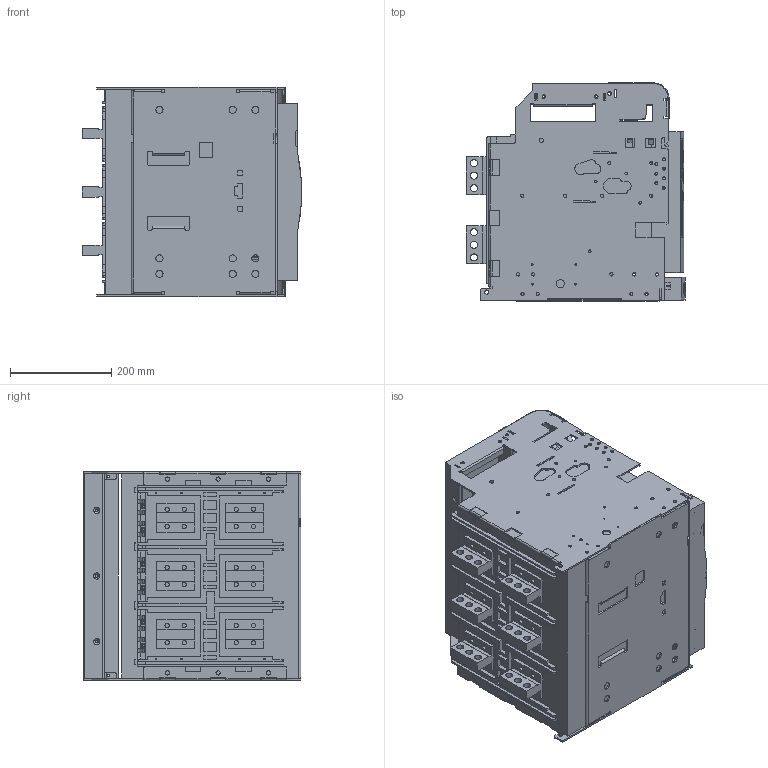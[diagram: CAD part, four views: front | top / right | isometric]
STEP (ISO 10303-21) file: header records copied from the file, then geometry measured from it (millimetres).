
FILE_DESCRIPTION (( 'STEP AP214' ), '1' );
FILE_NAME ('OptiMat A-S4-BH-2500-3200-3P-D-V.STEP', '2023-08-01T06:36:39', ( '' ), ( '' ), 'SwSTEP 2.0', 'SolidWorks 2018', '' );
FILE_SCHEMA (( 'AUTOMOTIVE_DESIGN' ));
Length unit declared in the file: millimetre
Products named in the file (1): OptiMat A-S4-BH-2500-3200-3P-D-V
Bounding box: 433.8 x 431.5 x 415 mm (x, y, z)
Volume: 42821715.4 mm3; surface area: 2484658.1 mm2
Topology: 11 solids, 11 shells, 4386 faces, 12230 edges, 8014 vertices
Faces by surface type: plane 2759, cylinder 1396, cone 139, torus 44, bspline 36, sphere 12
Entity records: 195559 total; most frequent: CARTESIAN_POINT 34671, ORIENTED_EDGE 24416, DIRECTION 23058, EDGE_CURVE 12208, VECTOR 8774, LINE 8774, VERTEX_POINT 8014, AXIS2_PLACEMENT_3D 7142
